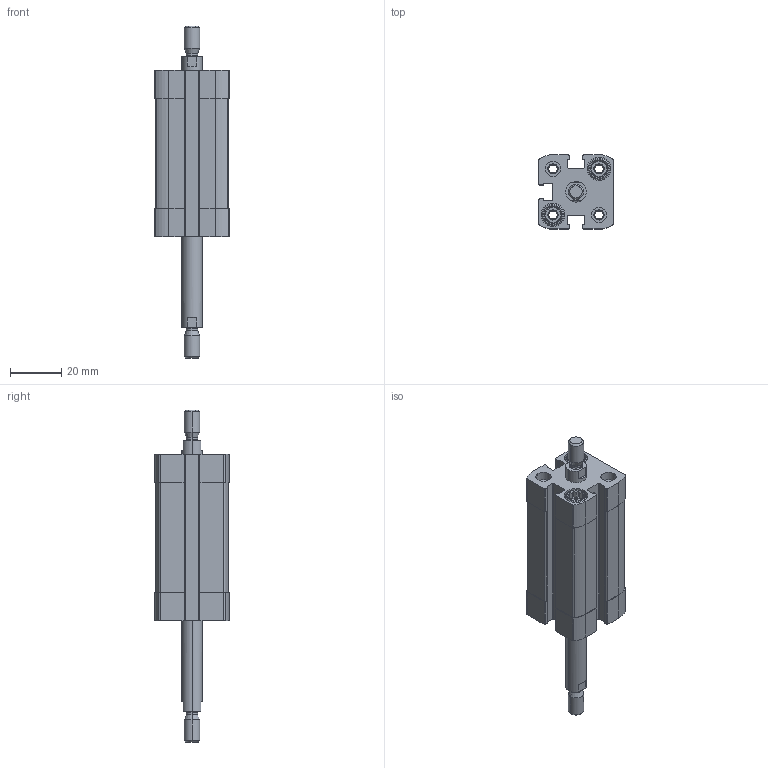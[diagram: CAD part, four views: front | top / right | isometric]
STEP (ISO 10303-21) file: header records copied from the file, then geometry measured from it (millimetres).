
FILE_DESCRIPTION (( 'STEP AP203' ), '1' );
FILE_NAME ('CCN16-30-P.STEP', '2020-06-22T18:37:42', ( '' ), ( '' ), 'SwSTEP 2.0', 'SolidWorks 2019', '' );
FILE_SCHEMA (( 'CONFIG_CONTROL_DESIGN' ));
Length unit declared in the file: millimetre
Products named in the file (1): CCN16-30-P
Bounding box: 29 x 29 x 129.7 mm (x, y, z)
Volume: 40745.9 mm3; surface area: 21697.5 mm2
Topology: 2 solids, 2 shells, 384 faces, 978 edges, 634 vertices
Faces by surface type: plane 192, cylinder 140, cone 44, torus 8
Entity records: 11803 total; most frequent: CARTESIAN_POINT 2297, DIRECTION 1990, ORIENTED_EDGE 1956, EDGE_CURVE 978, AXIS2_PLACEMENT_3D 727, VERTEX_POINT 634, LINE 536, VECTOR 536
